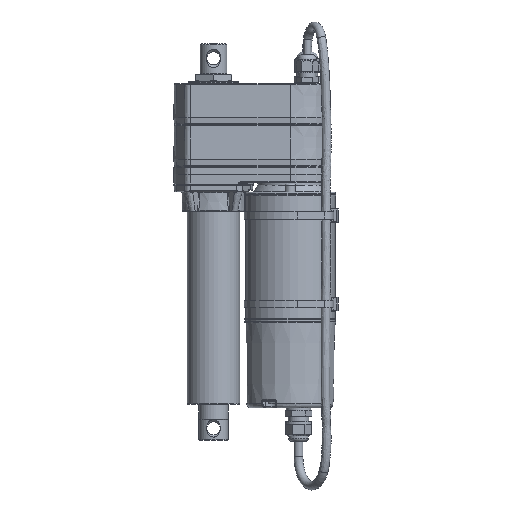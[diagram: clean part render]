
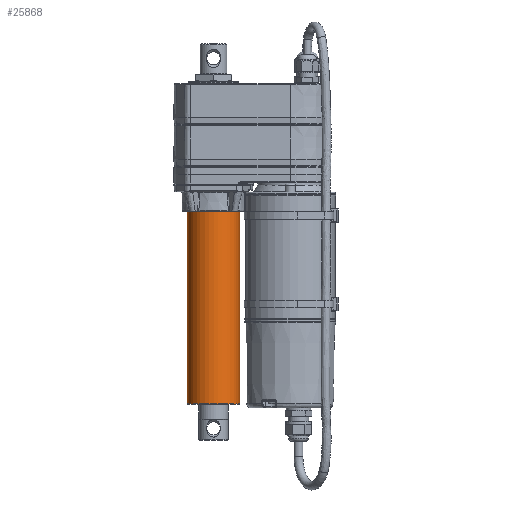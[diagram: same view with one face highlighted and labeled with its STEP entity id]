
A CAD part, left-side view. The second image highlights one B-rep face of the part: STEP entity #25868.
In plain terms, the highlighted cylindrical face has radius 25.4 mm (diameter 50.8 mm), a full revolution.
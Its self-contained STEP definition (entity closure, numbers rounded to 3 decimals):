
#711 = AXIS2_PLACEMENT_3D ( 'NONE', #2639, #24523, #5781 ) ;
#1792 = DIRECTION ( 'NONE',  ( 0., 0., -1. ) ) ;
#2639 = CARTESIAN_POINT ( 'NONE',  ( 0., 0., -270.5 ) ) ;
#4478 = CARTESIAN_POINT ( 'NONE',  ( 25.4, 0., -83.664 ) ) ;
#5781 = DIRECTION ( 'NONE',  ( 1., 0., 0. ) ) ;
#6737 = FACE_OUTER_BOUND ( 'NONE', #18777, .T. ) ;
#14170 = VERTEX_POINT ( 'NONE', #4478 ) ;
#17474 = CARTESIAN_POINT ( 'NONE',  ( 0., 0., 0. ) ) ;
#17671 = ORIENTED_EDGE ( 'NONE', *, *, #34570, .T. ) ;
#18777 = EDGE_LOOP ( 'NONE', ( #17671 ) ) ;
#19491 = VERTEX_POINT ( 'NONE', #26490 ) ;
#20500 = CARTESIAN_POINT ( 'NONE',  ( 0., 0., -83.664 ) ) ;
#22408 = CYLINDRICAL_SURFACE ( 'NONE', #33349, 25.4 ) ;
#22595 = ORIENTED_EDGE ( 'NONE', *, *, #27584, .T. ) ;
#23617 = DIRECTION ( 'NONE',  ( 1., 0., 0. ) ) ;
#23659 = DIRECTION ( 'NONE',  ( 1., 0., 0. ) ) ;
#24523 = DIRECTION ( 'NONE',  ( 0., 0., 1. ) ) ;
#25868 = ADVANCED_FACE ( 'NONE', ( #31667, #6737 ), #22408, .T. ) ;
#26490 = CARTESIAN_POINT ( 'NONE',  ( 25.4, 0., -270.5 ) ) ;
#27584 = EDGE_CURVE ( 'NONE', #14170, #14170, #30714, .T. ) ;
#29907 = DIRECTION ( 'NONE',  ( 0., 0., 1. ) ) ;
#30552 = AXIS2_PLACEMENT_3D ( 'NONE', #20500, #1792, #23659 ) ;
#30714 = CIRCLE ( 'NONE', #30552, 25.4 ) ;
#31667 = FACE_OUTER_BOUND ( 'NONE', #36500, .T. ) ;
#33349 = AXIS2_PLACEMENT_3D ( 'NONE', #17474, #29907, #23617 ) ;
#34570 = EDGE_CURVE ( 'NONE', #19491, #19491, #39075, .T. ) ;
#36500 = EDGE_LOOP ( 'NONE', ( #22595 ) ) ;
#39075 = CIRCLE ( 'NONE', #711, 25.4 ) ;
